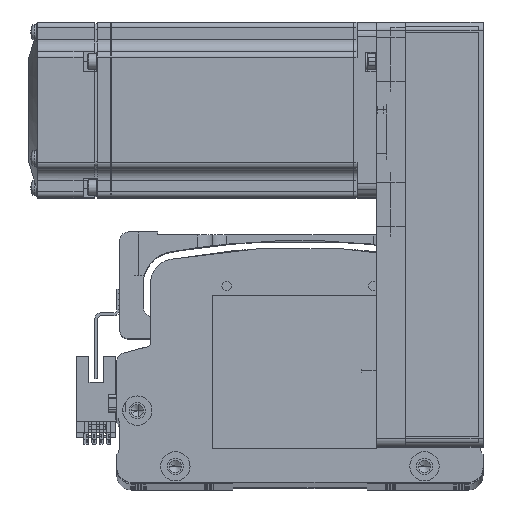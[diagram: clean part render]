
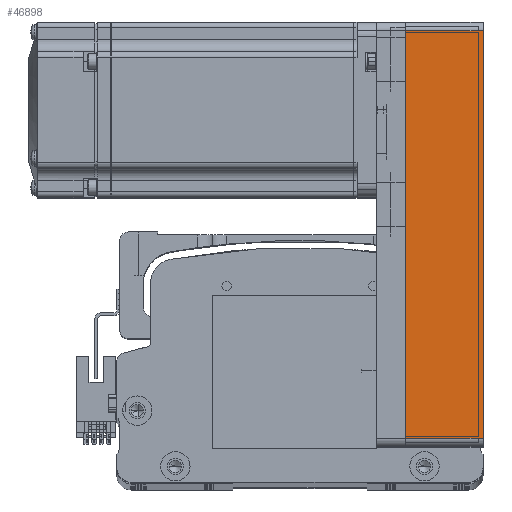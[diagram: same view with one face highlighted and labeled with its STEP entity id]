
A CAD part, top view. The second image highlights one B-rep face of the part: STEP entity #46898.
In plain terms, the highlighted planar face has unit normal (0, 0, 1) as drawn and (0, 1, 0) by its records, which use the part's own axes.
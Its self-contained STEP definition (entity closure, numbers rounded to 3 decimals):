
#1603 = ORIENTED_EDGE ( 'NONE', *, *, #57906, .T. ) ;
#3130 = DIRECTION ( 'NONE',  ( -1., 0., 0. ) ) ;
#3963 = CARTESIAN_POINT ( 'NONE',  ( 69.5, 30., 26.5 ) ) ;
#4601 = DIRECTION ( 'NONE',  ( 1., 0., 0. ) ) ;
#8499 = LINE ( 'NONE', #84163, #41452 ) ;
#9169 = LINE ( 'NONE', #17545, #40074 ) ;
#10851 = PLANE ( 'NONE',  #65635 ) ;
#10905 = EDGE_LOOP ( 'NONE', ( #53935, #73179, #11364, #1603 ) ) ;
#11364 = ORIENTED_EDGE ( 'NONE', *, *, #44528, .F. ) ;
#17318 = VERTEX_POINT ( 'NONE', #3963 ) ;
#17545 = CARTESIAN_POINT ( 'NONE',  ( 72.5, 30., 26.5 ) ) ;
#20914 = CARTESIAN_POINT ( 'NONE',  ( -69.5, 30., 26.5 ) ) ;
#24154 = DIRECTION ( 'NONE',  ( -1., 0., 0. ) ) ;
#33675 = CARTESIAN_POINT ( 'NONE',  ( 69.5, 30., 26.5 ) ) ;
#34034 = EDGE_CURVE ( 'NONE', #46990, #42022, #50699, .T. ) ;
#34265 = EDGE_CURVE ( 'NONE', #42022, #61687, #8499, .T. ) ;
#40074 = VECTOR ( 'NONE', #24154, 1000. ) ;
#41452 = VECTOR ( 'NONE', #64818, 1000. ) ;
#42022 = VERTEX_POINT ( 'NONE', #81712 ) ;
#42650 = VECTOR ( 'NONE', #67254, 1000. ) ;
#43963 = DIRECTION ( 'NONE',  ( 0., -1., 0. ) ) ;
#44528 = EDGE_CURVE ( 'NONE', #17318, #61687, #9169, .T. ) ;
#44538 = CARTESIAN_POINT ( 'NONE',  ( 69.5, 30., 0. ) ) ;
#46898 = ADVANCED_FACE ( 'NONE', ( #50060 ), #10851, .F. ) ;
#46990 = VERTEX_POINT ( 'NONE', #44538 ) ;
#48646 = VECTOR ( 'NONE', #3130, 1000. ) ;
#50060 = FACE_OUTER_BOUND ( 'NONE', #10905, .T. ) ;
#50699 = LINE ( 'NONE', #54804, #48646 ) ;
#53935 = ORIENTED_EDGE ( 'NONE', *, *, #34034, .T. ) ;
#54804 = CARTESIAN_POINT ( 'NONE',  ( 72.5, 30., 0. ) ) ;
#57906 = EDGE_CURVE ( 'NONE', #17318, #46990, #60047, .T. ) ;
#60047 = LINE ( 'NONE', #33675, #42650 ) ;
#61687 = VERTEX_POINT ( 'NONE', #20914 ) ;
#64818 = DIRECTION ( 'NONE',  ( 0., 0., 1. ) ) ;
#65635 = AXIS2_PLACEMENT_3D ( 'NONE', #83374, #43963, #4601 ) ;
#67254 = DIRECTION ( 'NONE',  ( 0., 0., -1. ) ) ;
#73179 = ORIENTED_EDGE ( 'NONE', *, *, #34265, .T. ) ;
#81712 = CARTESIAN_POINT ( 'NONE',  ( -69.5, 30., 0. ) ) ;
#83374 = CARTESIAN_POINT ( 'NONE',  ( 72.5, 30., 26.5 ) ) ;
#84163 = CARTESIAN_POINT ( 'NONE',  ( -69.5, 30., 26.5 ) ) ;
